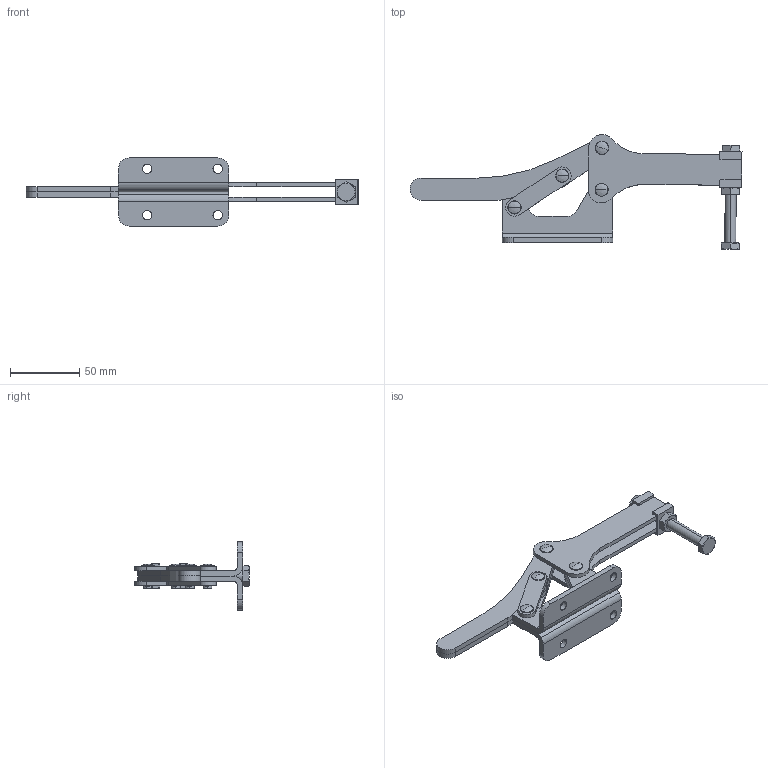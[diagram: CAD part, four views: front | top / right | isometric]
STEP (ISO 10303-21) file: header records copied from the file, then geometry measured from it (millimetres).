
FILE_DESCRIPTION((''),'2;1');
FILE_NAME('C:\lapeer-mfg\600\H-600\H-600.stp','2005-03-28T18:51:03',('rtaylor'),(''),'Autodesk Inventor 9','Autodesk Inventor 9','');
FILE_SCHEMA(('CONFIG_CONTROL_DESIGN'));
Length unit declared in the file: inch
Products named in the file (11): H-600; 120014L; 120014R; 100038; 130002; 150037; 470005; 16-18 UNC - 2; 16 - 18; 171009; 110021
Assembly tree (18 placements, depth 3):
  H-600
    120014L
    120014R
    100038  x2
    130002  x2
    150037  x4
    470005
      16-18 UNC - 2
      16 - 18  x2
      171009  x2
    110021  x2
Bounding box: 238.99 x 82.56 x 49.17 mm (x, y, z)
Volume: 75592.5 mm3; surface area: 53694.2 mm2
Topology: 17 solids, 17 shells, 332 faces, 822 edges, 526 vertices
Faces by surface type: cylinder 99, plane 99, bspline 60, cone 50, torus 16, sphere 8
Entity records: 7812 total; most frequent: CARTESIAN_POINT 1605, DIRECTION 1000, ORIENTED_EDGE 936, EDGE_CURVE 468, AXIS2_PLACEMENT_3D 389, VERTEX_POINT 302, EDGE_LOOP 224, VECTOR 222
